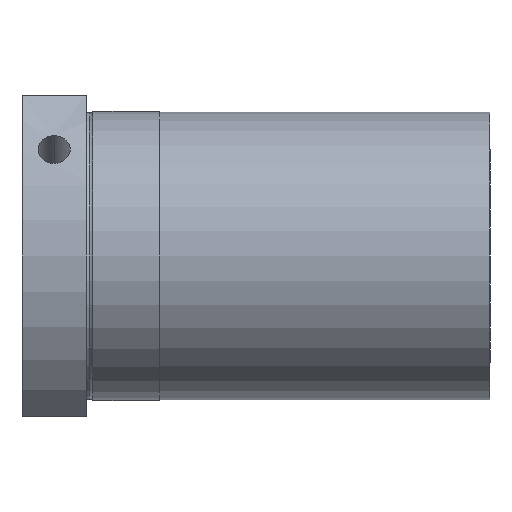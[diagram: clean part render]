
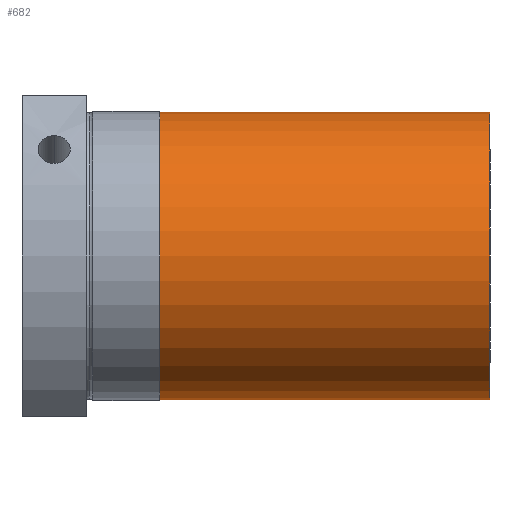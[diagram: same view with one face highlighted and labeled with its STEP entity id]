
A CAD part, front view. The second image highlights one B-rep face of the part: STEP entity #682.
In plain terms, the highlighted cylindrical face has radius 31.35 mm (diameter 62.7 mm), a partial arc.
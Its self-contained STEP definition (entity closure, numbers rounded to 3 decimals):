
#6 = EDGE_CURVE ( 'NONE', #634, #842, #477, .T. ) ;
#16 = ORIENTED_EDGE ( 'NONE', *, *, #455, .F. ) ;
#58 = AXIS2_PLACEMENT_3D ( 'NONE', #247, #208, #933 ) ;
#61 = VECTOR ( 'NONE', #433, 1000. ) ;
#149 = ORIENTED_EDGE ( 'NONE', *, *, #895, .T. ) ;
#168 = LINE ( 'NONE', #888, #679 ) ;
#208 = DIRECTION ( 'NONE',  ( -1., 0., 0. ) ) ;
#217 = EDGE_LOOP ( 'NONE', ( #16, #698, #149, #1278 ) ) ;
#221 = FACE_OUTER_BOUND ( 'NONE', #217, .T. ) ;
#247 = CARTESIAN_POINT ( 'NONE',  ( 43.37, 0., 0. ) ) ;
#262 = CARTESIAN_POINT ( 'NONE',  ( -28.63, 0., -31.35 ) ) ;
#263 = DIRECTION ( 'NONE',  ( -1., 0., 0. ) ) ;
#388 = DIRECTION ( 'NONE',  ( 0., 0., 1. ) ) ;
#433 = DIRECTION ( 'NONE',  ( -1., 0., 0. ) ) ;
#446 = CARTESIAN_POINT ( 'NONE',  ( 43.37, 0., -31.35 ) ) ;
#455 = EDGE_CURVE ( 'NONE', #746, #634, #168, .T. ) ;
#477 = CIRCLE ( 'NONE', #976, 31.35 ) ;
#549 = EDGE_CURVE ( 'NONE', #746, #597, #691, .T. ) ;
#597 = VERTEX_POINT ( 'NONE', #951 ) ;
#602 = LINE ( 'NONE', #1053, #61 ) ;
#619 = CARTESIAN_POINT ( 'NONE',  ( -28.63, 0., 31.35 ) ) ;
#634 = VERTEX_POINT ( 'NONE', #262 ) ;
#679 = VECTOR ( 'NONE', #263, 1000. ) ;
#682 = ADVANCED_FACE ( 'NONE', ( #221 ), #1014, .T. ) ;
#684 = DIRECTION ( 'NONE',  ( -1., 0., 0. ) ) ;
#691 = CIRCLE ( 'NONE', #58, 31.35 ) ;
#692 = DIRECTION ( 'NONE',  ( -1., 0., 0. ) ) ;
#698 = ORIENTED_EDGE ( 'NONE', *, *, #549, .T. ) ;
#746 = VERTEX_POINT ( 'NONE', #446 ) ;
#842 = VERTEX_POINT ( 'NONE', #619 ) ;
#888 = CARTESIAN_POINT ( 'NONE',  ( -100.792, 0., -31.35 ) ) ;
#895 = EDGE_CURVE ( 'NONE', #597, #842, #602, .T. ) ;
#933 = DIRECTION ( 'NONE',  ( 0., 0., 1. ) ) ;
#951 = CARTESIAN_POINT ( 'NONE',  ( 43.37, 0., 31.35 ) ) ;
#976 = AXIS2_PLACEMENT_3D ( 'NONE', #1096, #684, #1008 ) ;
#1008 = DIRECTION ( 'NONE',  ( 0., 0., 1. ) ) ;
#1014 = CYLINDRICAL_SURFACE ( 'NONE', #1283, 31.35 ) ;
#1053 = CARTESIAN_POINT ( 'NONE',  ( -100.792, 0., 31.35 ) ) ;
#1096 = CARTESIAN_POINT ( 'NONE',  ( -28.63, 0., 0. ) ) ;
#1278 = ORIENTED_EDGE ( 'NONE', *, *, #6, .F. ) ;
#1283 = AXIS2_PLACEMENT_3D ( 'NONE', #1325, #692, #388 ) ;
#1325 = CARTESIAN_POINT ( 'NONE',  ( -100.792, 0., 0. ) ) ;
